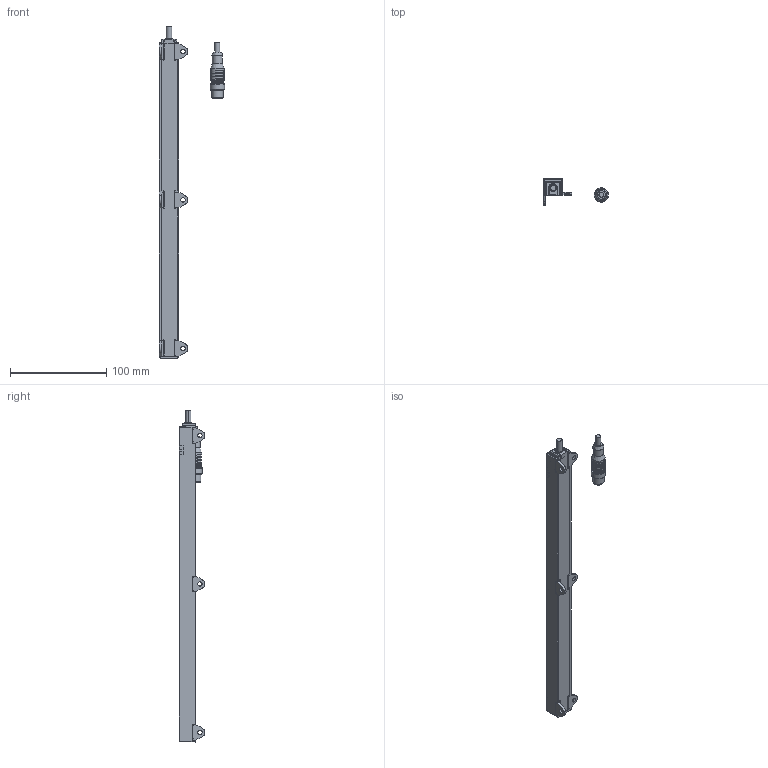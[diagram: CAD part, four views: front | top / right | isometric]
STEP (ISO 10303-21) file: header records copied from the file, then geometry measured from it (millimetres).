
FILE_DESCRIPTION (( 'STEP AP203' ), '1' );
FILE_NAME ('Li300-Q17LM1-X2-RS.step', '2016-02-16T21:30:18', ( 'Turck User' ), ( '' ), 'SwSTEP 2.0', 'SolidWorks 2014', '' );
FILE_SCHEMA (( 'CONFIG_CONTROL_DESIGN' ));
Length unit declared in the file: millimetre
Products named in the file (2): Li300-Q17LM1-X2-RS
Bounding box: 67.5 x 26.58 x 344.5 mm (x, y, z)
Volume: 112038.7 mm3; surface area: 36394.1 mm2
Topology: 8 solids, 8 shells, 862 faces, 2323 edges, 1534 vertices
Faces by surface type: plane 522, cylinder 292, cone 35, bspline 13
Entity records: 28173 total; most frequent: CARTESIAN_POINT 6047, ORIENTED_EDGE 4646, DIRECTION 4500, EDGE_CURVE 2323, LINE 1628, VECTOR 1628, VERTEX_POINT 1534, AXIS2_PLACEMENT_3D 1436
